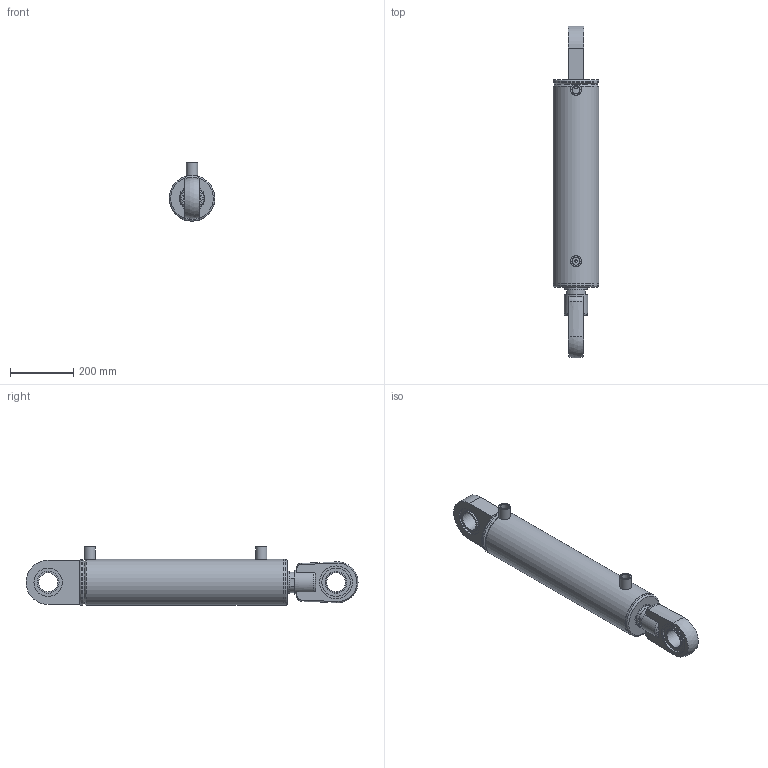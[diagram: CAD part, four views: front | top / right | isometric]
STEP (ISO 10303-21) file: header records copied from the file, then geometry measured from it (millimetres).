
FILE_DESCRIPTION(/* description */ (''),/* implementation_level */ '2;1');
FILE_NAME(/* name */ 'HC_A_125_70_500_AMB_WEB.step',/* time_stamp */ '2023-07-31T17:47:08+03:00',/* author */ (''),/* organization */ (''),/* preprocessor_version */ 'ST-DEVELOPER v20',/* originating_system */ 'Autodesk Translation Framework v12.9.0.99',/* authorisation */ '');
FILE_SCHEMA (('AUTOMOTIVE_DESIGN { 1 0 10303 214 3 1 1 }'));
Length unit declared in the file: millimetre
Products named in the file (17): TRACE_PARTS_125_70_100STROKE; TAK_125_145; Bileşen1; 125_145_HON_BORU; Bileşen1_1; TDK_125_70_M130X2; Bileşen1_2; K0_115X5; K33-070; K06-070; 70_HONLU_MİL; Bileşen1_3; RMV_60; dgihl_60_do; RMK_60; RMK_60_1; Manşon3_4
Assembly tree (17 placements, depth 3):
  TRACE_PARTS_125_70_100STROKE
    TAK_125_145
      Bileşen1
    125_145_HON_BORU
      Bileşen1_1
    TDK_125_70_M130X2
      Bileşen1_2
      K0_115X5
      K33-070
      K06-070
    70_HONLU_MİL
      Bileşen1_3
    RMV_60
      dgihl_60_do
    RMK_60
      RMK_60_1
    Manşon3_4  x2
Bounding box: 145 x 1051.33 x 185 mm (x, y, z)
Volume: 6264522.8 mm3; surface area: 930577.8 mm2
Topology: 11 solids, 11 shells, 634 faces, 1625 edges, 1070 vertices
Faces by surface type: bspline 302, plane 206, cylinder 59, cone 48, torus 16, sphere 3
Full cylindrical faces by diameter (mm): 8 x2, 24.5 x2, 35 x1, 36 x2, 49.822 x1, 56.376 x1, 57.85 x1, 60 x3, 70 x5, 70.948 x2, 71.107 x1, 73.2 x1, 75 x1, 79.408 x1, 80 x1, 80.58 x1, 80.6 x1, 90 x4, 104 x2, 117 x1, 125 x2, 126 x3, 127.5 x1, 128.023 x1, 129.822 x1, 145 x3
Entity records: 29345 total; most frequent: CARTESIAN_POINT 15518, ORIENTED_EDGE 3216, DIRECTION 1960, EDGE_CURVE 1608, VERTEX_POINT 1060, LINE 710, VECTOR 710, EDGE_LOOP 704
